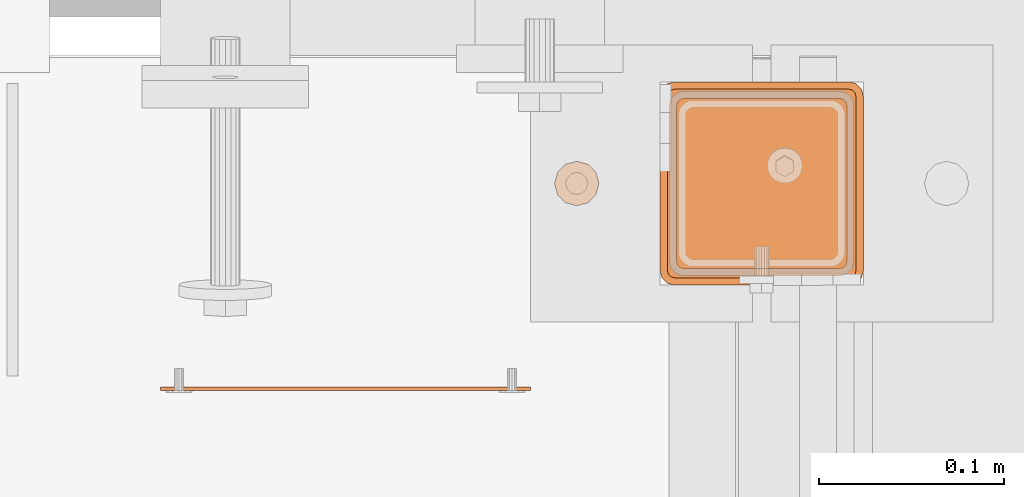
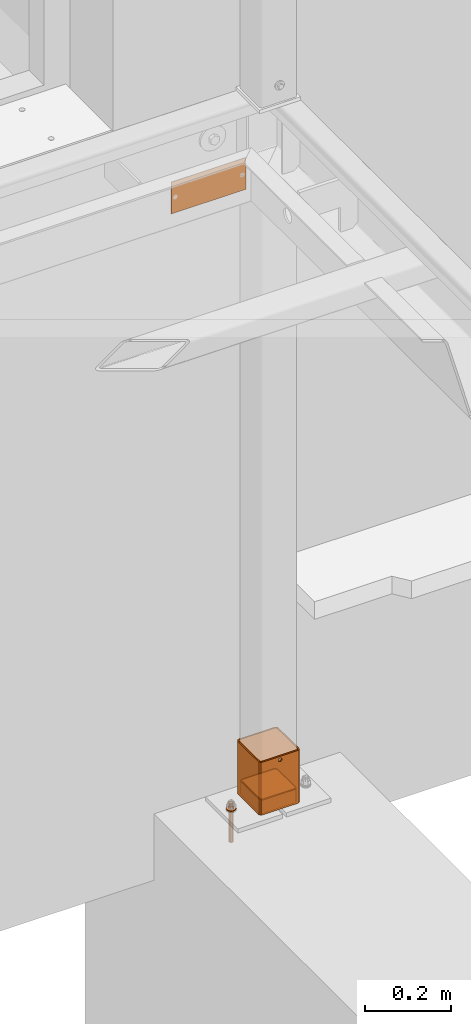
# One storey, part 96 of 116: 4 proxies.
"""IFC2X3 building model written with IfcOpenShell, lengths in millimetres."""

from ifc_helpers import new_model, entity, si_unit, converted_unit, origin_with_axes, place, context, project, spatial, faceted_brep, material, element, save


model = new_model("IFC2X3")

# Units and contexts
model_context = context("Model", 3, precision=1e-09, world=origin_with_axes())
ifc_project = project(units=[si_unit("LENGTHUNIT", "METRE", prefix="MILLI"), si_unit("AREAUNIT", "SQUARE_METRE"), si_unit("VOLUMEUNIT", "CUBIC_METRE"), converted_unit("PLANEANGLEUNIT", "DEGREE", entity("IfcPlaneAngleMeasure", 0.01745329), si_unit("PLANEANGLEUNIT", "RADIAN"), dimensions=[0, 0, 0, 0, 0, 0, 0])], contexts=[model_context])

# Site, building, storey
site_placement = place(None, origin_with_axes())
site = spatial("IfcSite", under=ifc_project, at=site_placement, Name="Site", CompositionType="ELEMENT")
building_placement = place(site_placement, origin_with_axes())
building = spatial("IfcBuilding", under=site, at=building_placement, Name="Struktur 1", CompositionType="ELEMENT")
storey_placement = place(building_placement, origin_with_axes())
storey = spatial("IfcBuildingStorey", under=building, at=storey_placement, Name="Default Storey", CompositionType="ELEMENT", Elevation=0.0)

# Proxies
ifc_material = material(Name="Kein")
proxy_1_placement = place(None, origin_with_axes())
element("IfcBuildingElementProxy", 1, at=proxy_1_placement, inside=storey, material=ifc_material, ObjectType="-", context=model_context, shape_type="Brep", body=[
    faceted_brep([(58211.049134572, 12007.822984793, -1977.0), (58211.049134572, 12007.822984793, -1997.0), (58212.513236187, 12006.358883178, -1997.0), (58212.513236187, 12006.358883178, -1977.0), (58213.049134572, 12011.287086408, -1997.0), (58215.977337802, 12008.358883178, -1997.0), (58217.049134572, 12004.358883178, -1997.0), (58217.049134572, 11920.358883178, -1997.0), (58215.977337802, 11916.358883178, -1997.0), (58213.049134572, 11913.430679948, -1997.0), (58209.049134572, 11912.358883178, -1997.0), (58125.049134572, 11912.358883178, -1997.0), (58121.049134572, 11913.430679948, -1997.0), (58118.120931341, 11916.358883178, -1997.0), (58117.049134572, 11920.358883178, -1997.0), (58117.049134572, 12004.358883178, -1997.0), (58118.120931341, 12008.358883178, -1997.0), (58121.049134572, 12011.287086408, -1997.0), (58125.049134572, 12012.358883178, -1997.0), (58209.049134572, 12012.358883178, -1997.0), (58209.049134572, 12008.358883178, -1997.0), (58125.049134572, 12008.358883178, -1997.0), (58123.049134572, 12007.822984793, -1997.0), (58121.585032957, 12006.358883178, -1997.0), (58121.049134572, 12004.358883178, -1997.0), (58121.049134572, 11920.358883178, -1997.0), (58121.585032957, 11918.358883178, -1997.0), (58123.049134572, 11916.894781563, -1997.0), (58125.049134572, 11916.358883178, -1997.0), (58209.049134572, 11916.358883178, -1997.0), (58211.049134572, 11916.894781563, -1997.0), (58212.513236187, 11918.358883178, -1997.0), (58213.049134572, 11920.358883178, -1997.0), (58213.049134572, 12004.358883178, -1997.0), (58213.049134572, 12004.358883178, -1977.0), (58213.049134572, 11920.358883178, -1977.0), (58212.513236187, 11918.358883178, -1977.0), (58211.049134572, 11916.894781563, -1977.0), (58209.049134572, 11916.358883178, -1977.0), (58125.049134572, 11916.358883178, -1977.0), (58123.049134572, 11916.894781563, -1977.0), (58121.585032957, 11918.358883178, -1977.0), (58121.049134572, 11920.358883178, -1977.0), (58121.049134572, 12004.358883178, -1977.0), (58121.585032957, 12006.358883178, -1977.0), (58123.049134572, 12007.822984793, -1977.0), (58125.049134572, 12008.358883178, -1977.0), (58209.049134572, 12008.358883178, -1977.0), (58213.049134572, 12011.287086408, -1977.0), (58215.977337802, 12008.358883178, -1977.0), (58209.049134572, 12012.358883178, -1977.0), (58217.049134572, 12004.358883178, -1977.0), (58125.049134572, 12012.358883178, -1977.0), (58217.049134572, 11920.358883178, -1977.0), (58121.049134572, 12011.287086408, -1977.0), (58215.977337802, 11916.358883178, -1977.0), (58118.120931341, 12008.358883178, -1977.0), (58213.049134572, 11913.430679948, -1977.0), (58117.049134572, 12004.358883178, -1977.0), (58209.049134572, 11912.358883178, -1977.0), (58117.049134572, 11920.358883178, -1977.0), (58125.049134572, 11912.358883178, -1977.0), (58118.120931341, 11916.358883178, -1977.0), (58121.049134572, 11913.430679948, -1977.0)], [[[0, 1, 2, 3]], [[4, 5, 6, 7, 8, 9, 10, 11, 12, 13, 14, 15, 16, 17, 18, 19], [20, 21, 22, 23, 24, 25, 26, 27, 28, 29, 30, 31, 32, 33, 2, 1]], [[3, 34, 35, 36, 37, 38, 39, 40, 41, 42, 43, 44, 45, 46, 47, 0]], [[4, 48, 49, 5]], [[1, 0, 47, 20]], [[48, 4, 19, 50]], [[5, 49, 51, 6]], [[3, 2, 33, 34]], [[21, 20, 47, 46]], [[52, 50, 19, 18]], [[7, 6, 51, 53]], [[35, 34, 33, 32]], [[21, 46, 45, 22]], [[52, 18, 17, 54]], [[7, 53, 55, 8]], [[35, 32, 31, 36]], [[22, 45, 44, 23]], [[54, 17, 16, 56]], [[8, 55, 57, 9]], [[36, 31, 30, 37]], [[23, 44, 43, 24]], [[37, 30, 29, 38]], [[56, 16, 15, 58]], [[9, 57, 59, 10]], [[39, 38, 29, 28]], [[25, 24, 43, 42]], [[60, 58, 15, 14]], [[27, 40, 39, 28]], [[11, 10, 59, 61]], [[40, 27, 26, 41]], [[41, 26, 25, 42]], [[60, 14, 13, 62]], [[11, 61, 63, 12]], [[62, 13, 12, 63]]]),
    faceted_brep([(58211.049134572, 12007.822984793, -1967.0), (58211.049134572, 12007.822984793, -1977.0), (58212.513236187, 12006.358883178, -1977.0), (58212.513236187, 12006.358883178, -1967.0), (58213.049134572, 12011.287086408, -1977.0), (58215.977337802, 12008.358883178, -1977.0), (58217.049134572, 12004.358883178, -1977.0), (58217.049134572, 11920.358883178, -1977.0), (58215.977337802, 11916.358883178, -1977.0), (58213.049134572, 11913.430679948, -1977.0), (58209.049134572, 11912.358883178, -1977.0), (58125.049134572, 11912.358883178, -1977.0), (58121.049134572, 11913.430679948, -1977.0), (58118.120931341, 11916.358883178, -1977.0), (58117.049134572, 11920.358883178, -1977.0), (58117.049134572, 12004.358883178, -1977.0), (58118.120931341, 12008.358883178, -1977.0), (58121.049134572, 12011.287086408, -1977.0), (58125.049134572, 12012.358883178, -1977.0), (58209.049134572, 12012.358883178, -1977.0), (58209.049134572, 12008.358883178, -1977.0), (58125.049134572, 12008.358883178, -1977.0), (58123.049134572, 12007.822984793, -1977.0), (58121.585032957, 12006.358883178, -1977.0), (58121.049134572, 12004.358883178, -1977.0), (58121.049134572, 11920.358883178, -1977.0), (58121.585032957, 11918.358883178, -1977.0), (58123.049134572, 11916.894781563, -1977.0), (58125.049134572, 11916.358883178, -1977.0), (58209.049134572, 11916.358883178, -1977.0), (58211.049134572, 11916.894781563, -1977.0), (58212.513236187, 11918.358883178, -1977.0), (58213.049134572, 11920.358883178, -1977.0), (58213.049134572, 12004.358883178, -1977.0), (58213.049134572, 12004.358883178, -1967.0), (58213.049134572, 11920.358883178, -1967.0), (58212.513236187, 11918.358883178, -1967.0), (58211.049134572, 11916.894781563, -1967.0), (58209.049134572, 11916.358883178, -1967.0), (58125.049134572, 11916.358883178, -1967.0), (58123.049134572, 11916.894781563, -1967.0), (58121.585032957, 11918.358883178, -1967.0), (58121.049134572, 11920.358883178, -1967.0), (58121.049134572, 12004.358883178, -1967.0), (58121.585032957, 12006.358883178, -1967.0), (58123.049134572, 12007.822984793, -1967.0), (58125.049134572, 12008.358883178, -1967.0), (58209.049134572, 12008.358883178, -1967.0), (58213.049134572, 12011.287086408, -1967.0), (58215.977337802, 12008.358883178, -1967.0), (58209.049134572, 12012.358883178, -1967.0), (58217.049134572, 12004.358883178, -1967.0), (58125.049134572, 12012.358883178, -1967.0), (58217.049134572, 11920.358883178, -1967.0), (58121.049134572, 12011.287086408, -1967.0), (58215.977337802, 11916.358883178, -1967.0), (58118.120931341, 12008.358883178, -1967.0), (58213.049134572, 11913.430679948, -1967.0), (58117.049134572, 12004.358883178, -1967.0), (58209.049134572, 11912.358883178, -1967.0), (58117.049134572, 11920.358883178, -1967.0), (58125.049134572, 11912.358883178, -1967.0), (58118.120931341, 11916.358883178, -1967.0), (58121.049134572, 11913.430679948, -1967.0)], [[[0, 1, 2, 3]], [[4, 5, 6, 7, 8, 9, 10, 11, 12, 13, 14, 15, 16, 17, 18, 19], [20, 21, 22, 23, 24, 25, 26, 27, 28, 29, 30, 31, 32, 33, 2, 1]], [[3, 34, 35, 36, 37, 38, 39, 40, 41, 42, 43, 44, 45, 46, 47, 0]], [[4, 48, 49, 5]], [[1, 0, 47, 20]], [[48, 4, 19, 50]], [[5, 49, 51, 6]], [[3, 2, 33, 34]], [[21, 20, 47, 46]], [[52, 50, 19, 18]], [[7, 6, 51, 53]], [[35, 34, 33, 32]], [[21, 46, 45, 22]], [[52, 18, 17, 54]], [[7, 53, 55, 8]], [[35, 32, 31, 36]], [[22, 45, 44, 23]], [[54, 17, 16, 56]], [[8, 55, 57, 9]], [[36, 31, 30, 37]], [[23, 44, 43, 24]], [[37, 30, 29, 38]], [[56, 16, 15, 58]], [[9, 57, 59, 10]], [[39, 38, 29, 28]], [[25, 24, 43, 42]], [[60, 58, 15, 14]], [[27, 40, 39, 28]], [[11, 10, 59, 61]], [[40, 27, 26, 41]], [[41, 26, 25, 42]], [[60, 14, 13, 62]], [[11, 61, 63, 12]], [[62, 13, 12, 63]]]),
    faceted_brep([(58211.049134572, 12007.822984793, -1962.0), (58211.049134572, 12007.822984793, -1967.0), (58212.513236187, 12006.358883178, -1967.0), (58212.513236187, 12006.358883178, -1962.0), (58213.049134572, 12011.287086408, -1967.0), (58215.977337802, 12008.358883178, -1967.0), (58217.049134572, 12004.358883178, -1967.0), (58217.049134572, 11920.358883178, -1967.0), (58215.977337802, 11916.358883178, -1967.0), (58213.049134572, 11913.430679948, -1967.0), (58209.049134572, 11912.358883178, -1967.0), (58125.049134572, 11912.358883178, -1967.0), (58121.049134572, 11913.430679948, -1967.0), (58118.120931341, 11916.358883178, -1967.0), (58117.049134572, 11920.358883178, -1967.0), (58117.049134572, 12004.358883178, -1967.0), (58118.120931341, 12008.358883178, -1967.0), (58121.049134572, 12011.287086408, -1967.0), (58125.049134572, 12012.358883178, -1967.0), (58209.049134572, 12012.358883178, -1967.0), (58209.049134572, 12008.358883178, -1967.0), (58125.049134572, 12008.358883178, -1967.0), (58123.049134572, 12007.822984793, -1967.0), (58121.585032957, 12006.358883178, -1967.0), (58121.049134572, 12004.358883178, -1967.0), (58121.049134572, 11920.358883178, -1967.0), (58121.585032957, 11918.358883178, -1967.0), (58123.049134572, 11916.894781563, -1967.0), (58125.049134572, 11916.358883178, -1967.0), (58209.049134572, 11916.358883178, -1967.0), (58211.049134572, 11916.894781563, -1967.0), (58212.513236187, 11918.358883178, -1967.0), (58213.049134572, 11920.358883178, -1967.0), (58213.049134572, 12004.358883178, -1967.0), (58213.049134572, 12004.358883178, -1962.0), (58213.049134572, 11920.358883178, -1962.0), (58212.513236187, 11918.358883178, -1962.0), (58211.049134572, 11916.894781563, -1962.0), (58209.049134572, 11916.358883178, -1962.0), (58125.049134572, 11916.358883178, -1962.0), (58123.049134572, 11916.894781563, -1962.0), (58121.585032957, 11918.358883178, -1962.0), (58121.049134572, 11920.358883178, -1962.0), (58121.049134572, 12004.358883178, -1962.0), (58121.585032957, 12006.358883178, -1962.0), (58123.049134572, 12007.822984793, -1962.0), (58125.049134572, 12008.358883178, -1962.0), (58209.049134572, 12008.358883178, -1962.0), (58213.049134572, 12011.287086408, -1962.0), (58215.977337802, 12008.358883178, -1962.0), (58209.049134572, 12012.358883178, -1962.0), (58217.049134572, 12004.358883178, -1962.0), (58125.049134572, 12012.358883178, -1962.0), (58217.049134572, 11920.358883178, -1962.0), (58121.049134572, 12011.287086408, -1962.0), (58215.977337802, 11916.358883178, -1962.0), (58118.120931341, 12008.358883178, -1962.0), (58213.049134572, 11913.430679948, -1962.0), (58117.049134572, 12004.358883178, -1962.0), (58209.049134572, 11912.358883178, -1962.0), (58117.049134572, 11920.358883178, -1962.0), (58125.049134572, 11912.358883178, -1962.0), (58118.120931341, 11916.358883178, -1962.0), (58121.049134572, 11913.430679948, -1962.0)], [[[0, 1, 2, 3]], [[4, 5, 6, 7, 8, 9, 10, 11, 12, 13, 14, 15, 16, 17, 18, 19], [20, 21, 22, 23, 24, 25, 26, 27, 28, 29, 30, 31, 32, 33, 2, 1]], [[3, 34, 35, 36, 37, 38, 39, 40, 41, 42, 43, 44, 45, 46, 47, 0]], [[4, 48, 49, 5]], [[1, 0, 47, 20]], [[48, 4, 19, 50]], [[5, 49, 51, 6]], [[3, 2, 33, 34]], [[21, 20, 47, 46]], [[52, 50, 19, 18]], [[7, 6, 51, 53]], [[35, 34, 33, 32]], [[21, 46, 45, 22]], [[52, 18, 17, 54]], [[7, 53, 55, 8]], [[35, 32, 31, 36]], [[22, 45, 44, 23]], [[54, 17, 16, 56]], [[8, 55, 57, 9]], [[36, 31, 30, 37]], [[23, 44, 43, 24]], [[37, 30, 29, 38]], [[56, 16, 15, 58]], [[9, 57, 59, 10]], [[39, 38, 29, 28]], [[25, 24, 43, 42]], [[60, 58, 15, 14]], [[27, 40, 39, 28]], [[11, 10, 59, 61]], [[40, 27, 26, 41]], [[41, 26, 25, 42]], [[60, 14, 13, 62]], [[11, 61, 63, 12]], [[62, 13, 12, 63]]]),
    faceted_brep([(58211.049134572, 12007.822984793, -1959.0), (58211.049134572, 12007.822984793, -1962.0), (58212.513236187, 12006.358883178, -1962.0), (58212.513236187, 12006.358883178, -1959.0), (58213.049134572, 12011.287086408, -1962.0), (58215.977337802, 12008.358883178, -1962.0), (58217.049134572, 12004.358883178, -1962.0), (58217.049134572, 11920.358883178, -1962.0), (58215.977337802, 11916.358883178, -1962.0), (58213.049134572, 11913.430679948, -1962.0), (58209.049134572, 11912.358883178, -1962.0), (58125.049134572, 11912.358883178, -1962.0), (58121.049134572, 11913.430679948, -1962.0), (58118.120931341, 11916.358883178, -1962.0), (58117.049134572, 11920.358883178, -1962.0), (58117.049134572, 12004.358883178, -1962.0), (58118.120931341, 12008.358883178, -1962.0), (58121.049134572, 12011.287086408, -1962.0), (58125.049134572, 12012.358883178, -1962.0), (58209.049134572, 12012.358883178, -1962.0), (58209.049134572, 12008.358883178, -1962.0), (58125.049134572, 12008.358883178, -1962.0), (58123.049134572, 12007.822984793, -1962.0), (58121.585032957, 12006.358883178, -1962.0), (58121.049134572, 12004.358883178, -1962.0), (58121.049134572, 11920.358883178, -1962.0), (58121.585032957, 11918.358883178, -1962.0), (58123.049134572, 11916.894781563, -1962.0), (58125.049134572, 11916.358883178, -1962.0), (58209.049134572, 11916.358883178, -1962.0), (58211.049134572, 11916.894781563, -1962.0), (58212.513236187, 11918.358883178, -1962.0), (58213.049134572, 11920.358883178, -1962.0), (58213.049134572, 12004.358883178, -1962.0), (58213.049134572, 12004.358883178, -1959.0), (58213.049134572, 11920.358883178, -1959.0), (58212.513236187, 11918.358883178, -1959.0), (58211.049134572, 11916.894781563, -1959.0), (58209.049134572, 11916.358883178, -1959.0), (58125.049134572, 11916.358883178, -1959.0), (58123.049134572, 11916.894781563, -1959.0), (58121.585032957, 11918.358883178, -1959.0), (58121.049134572, 11920.358883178, -1959.0), (58121.049134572, 12004.358883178, -1959.0), (58121.585032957, 12006.358883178, -1959.0), (58123.049134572, 12007.822984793, -1959.0), (58125.049134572, 12008.358883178, -1959.0), (58209.049134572, 12008.358883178, -1959.0), (58213.049134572, 12011.287086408, -1959.0), (58215.977337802, 12008.358883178, -1959.0), (58209.049134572, 12012.358883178, -1959.0), (58217.049134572, 12004.358883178, -1959.0), (58125.049134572, 12012.358883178, -1959.0), (58217.049134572, 11920.358883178, -1959.0), (58121.049134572, 12011.287086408, -1959.0), (58215.977337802, 11916.358883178, -1959.0), (58118.120931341, 12008.358883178, -1959.0), (58213.049134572, 11913.430679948, -1959.0), (58117.049134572, 12004.358883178, -1959.0), (58209.049134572, 11912.358883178, -1959.0), (58117.049134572, 11920.358883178, -1959.0), (58125.049134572, 11912.358883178, -1959.0), (58118.120931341, 11916.358883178, -1959.0), (58121.049134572, 11913.430679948, -1959.0)], [[[0, 1, 2, 3]], [[4, 5, 6, 7, 8, 9, 10, 11, 12, 13, 14, 15, 16, 17, 18, 19], [20, 21, 22, 23, 24, 25, 26, 27, 28, 29, 30, 31, 32, 33, 2, 1]], [[3, 34, 35, 36, 37, 38, 39, 40, 41, 42, 43, 44, 45, 46, 47, 0]], [[4, 48, 49, 5]], [[1, 0, 47, 20]], [[48, 4, 19, 50]], [[5, 49, 51, 6]], [[3, 2, 33, 34]], [[21, 20, 47, 46]], [[52, 50, 19, 18]], [[7, 6, 51, 53]], [[35, 34, 33, 32]], [[21, 46, 45, 22]], [[52, 18, 17, 54]], [[7, 53, 55, 8]], [[35, 32, 31, 36]], [[22, 45, 44, 23]], [[54, 17, 16, 56]], [[8, 55, 57, 9]], [[36, 31, 30, 37]], [[23, 44, 43, 24]], [[37, 30, 29, 38]], [[56, 16, 15, 58]], [[9, 57, 59, 10]], [[39, 38, 29, 28]], [[25, 24, 43, 42]], [[60, 58, 15, 14]], [[27, 40, 39, 28]], [[11, 10, 59, 61]], [[40, 27, 26, 41]], [[41, 26, 25, 42]], [[60, 14, 13, 62]], [[11, 61, 63, 12]], [[62, 13, 12, 63]]]),
])
proxy_2_placement = place(None, origin_with_axes())
element("IfcBuildingElementProxy", 2, at=proxy_2_placement, inside=storey, material=ifc_material, ObjectType="-", context=model_context, shape_type="Brep", body=[
    faceted_brep([(58220.977337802, 12013.358883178, -1847.0), (58220.977337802, 12013.358883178, -1997.0), (58218.049134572, 12016.287086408, -1997.0), (58218.049134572, 12016.287086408, -1847.0), (58217.513236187, 12011.358883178, -1847.0), (58218.049134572, 12009.358883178, -1847.0), (58218.049134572, 11915.358883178, -1847.0), (58217.513236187, 11913.358883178, -1847.0), (58216.049134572, 11911.894781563, -1847.0), (58214.049134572, 11911.358883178, -1847.0), (58120.049134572, 11911.358883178, -1847.0), (58118.049134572, 11911.894781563, -1847.0), (58116.585032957, 11913.358883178, -1847.0), (58116.049134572, 11915.358883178, -1847.0), (58116.049134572, 12009.358883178, -1847.0), (58116.585032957, 12011.358883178, -1847.0), (58118.049134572, 12012.822984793, -1847.0), (58120.049134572, 12013.358883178, -1847.0), (58214.049134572, 12013.358883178, -1847.0), (58216.049134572, 12012.822984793, -1847.0), (58216.049134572, 12012.822984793, -1997.0), (58217.513236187, 12011.358883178, -1997.0), (58222.049134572, 12009.358883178, -1997.0), (58222.049134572, 11915.358883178, -1997.0), (58220.977337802, 11911.358883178, -1997.0), (58218.049134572, 11908.430679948, -1997.0), (58214.049134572, 11907.358883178, -1997.0), (58120.049134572, 11907.358883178, -1997.0), (58116.049134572, 11908.430679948, -1997.0), (58113.120931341, 11911.358883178, -1997.0), (58112.049134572, 11915.358883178, -1997.0), (58112.049134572, 12009.358883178, -1997.0), (58113.120931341, 12013.358883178, -1997.0), (58116.049134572, 12016.287086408, -1997.0), (58120.049134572, 12017.358883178, -1997.0), (58214.049134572, 12017.358883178, -1997.0), (58214.049134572, 12013.358883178, -1997.0), (58120.049134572, 12013.358883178, -1997.0), (58118.049134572, 12012.822984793, -1997.0), (58116.585032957, 12011.358883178, -1997.0), (58116.049134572, 12009.358883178, -1997.0), (58116.049134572, 11915.358883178, -1997.0), (58116.585032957, 11913.358883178, -1997.0), (58118.049134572, 11911.894781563, -1997.0), (58120.049134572, 11911.358883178, -1997.0), (58214.049134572, 11911.358883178, -1997.0), (58216.049134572, 11911.894781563, -1997.0), (58217.513236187, 11913.358883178, -1997.0), (58218.049134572, 11915.358883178, -1997.0), (58218.049134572, 12009.358883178, -1997.0), (58222.049134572, 12009.358883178, -1847.0), (58214.049134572, 12017.358883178, -1847.0), (58222.049134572, 11915.358883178, -1847.0), (58120.049134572, 12017.358883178, -1847.0), (58220.977337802, 11911.358883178, -1847.0), (58116.049134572, 12016.287086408, -1847.0), (58172.050134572, 11911.358883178, -1857.0), (58172.050134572, 11907.358883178, -1857.0), (58171.380127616, 11907.358883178, -1854.4995), (58171.380127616, 11911.358883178, -1854.4995), (58171.380127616, 11911.358883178, -1859.5005), (58171.380127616, 11907.358883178, -1859.5005), (58169.549634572, 11907.358883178, -1852.669006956), (58169.549634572, 11911.358883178, -1852.669006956), (58214.049134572, 11907.358883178, -1847.0), (58120.049134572, 11907.358883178, -1847.0), (58169.549634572, 11907.358883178, -1861.330993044), (58167.049134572, 11907.358883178, -1862.001), (58164.548634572, 11907.358883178, -1861.330993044), (58162.718141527, 11907.358883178, -1859.5005), (58162.048134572, 11907.358883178, -1857.0), (58162.718141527, 11907.358883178, -1854.4995), (58164.548634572, 11907.358883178, -1852.669006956), (58167.049134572, 11907.358883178, -1851.999), (58218.049134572, 11908.430679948, -1847.0), (58167.049134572, 11911.358883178, -1851.999), (58164.548634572, 11911.358883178, -1852.669006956), (58162.718141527, 11911.358883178, -1854.4995), (58162.048134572, 11911.358883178, -1857.0), (58162.718141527, 11911.358883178, -1859.5005), (58164.548634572, 11911.358883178, -1861.330993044), (58167.049134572, 11911.358883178, -1862.001), (58169.549634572, 11911.358883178, -1861.330993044), (58113.120931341, 12013.358883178, -1847.0), (58112.049134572, 12009.358883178, -1847.0), (58112.049134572, 11915.358883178, -1847.0), (58113.120931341, 11911.358883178, -1847.0), (58116.049134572, 11908.430679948, -1847.0)], [[[0, 1, 2, 3]], [[4, 5, 6, 7, 8, 9, 10, 11, 12, 13, 14, 15, 16, 17, 18, 19]], [[19, 20, 21, 4]], [[22, 23, 24, 25, 26, 27, 28, 29, 30, 31, 32, 33, 34, 35, 2, 1], [21, 20, 36, 37, 38, 39, 40, 41, 42, 43, 44, 45, 46, 47, 48, 49]], [[1, 0, 50, 22]], [[20, 19, 18, 36]], [[3, 2, 35, 51]], [[4, 21, 49, 5]], [[23, 22, 50, 52]], [[37, 36, 18, 17]], [[53, 51, 35, 34]], [[6, 5, 49, 48]], [[23, 52, 54, 24]], [[37, 17, 16, 38]], [[53, 34, 33, 55]], [[56, 57, 58, 59]], [[6, 48, 47, 7]], [[57, 56, 60, 61]], [[59, 58, 62, 63]], [[64, 65, 27, 26], [61, 66, 67, 68, 69, 70, 71, 72, 73, 62, 58, 57]], [[24, 54, 74, 25]], [[7, 47, 46, 8]], [[9, 45, 44, 10], [59, 63, 75, 76, 77, 78, 79, 80, 81, 82, 60, 56]], [[38, 16, 15, 39]], [[55, 33, 32, 83]], [[63, 62, 73, 75]], [[75, 73, 72, 76]], [[45, 9, 8, 46]], [[61, 60, 82, 66]], [[76, 72, 71, 77]], [[25, 74, 64, 26]], [[66, 82, 81, 67]], [[67, 81, 80, 68]], [[39, 15, 14, 40]], [[83, 32, 31, 84]], [[77, 71, 70, 78]], [[69, 79, 78, 70]], [[68, 80, 79, 69]], [[41, 40, 14, 13]], [[85, 84, 31, 30]], [[41, 13, 12, 42]], [[10, 44, 43, 11]], [[11, 43, 42, 12]], [[85, 30, 29, 86]], [[27, 65, 87, 28]], [[86, 29, 28, 87]]]),
])
proxy_3_placement = place(None, origin_with_axes())
element("IfcBuildingElementProxy", 3, at=proxy_3_placement, inside=storey, material=ifc_material, ObjectType="-", context=model_context, shape_type="Brep", body=[
    faceted_brep([(58070.049134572, 11957.162730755, -1976.5), (58070.049134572, 11957.162730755, -1992.0), (58072.245286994, 11959.358883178, -1992.0), (58072.245286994, 11959.358883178, -1976.5), (58079.049134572, 11962.358883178, -1992.0), (58077.441439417, 11968.358883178, -1992.0), (58073.049134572, 11972.751188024, -1992.0), (58067.049134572, 11974.358883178, -1992.0), (58061.049134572, 11972.751188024, -1992.0), (58056.656829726, 11968.358883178, -1992.0), (58055.049134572, 11962.358883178, -1992.0), (58056.656829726, 11956.358883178, -1992.0), (58061.049134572, 11951.966578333, -1992.0), (58067.049134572, 11950.358883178, -1992.0), (58073.049134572, 11951.966578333, -1992.0), (58077.441439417, 11956.358883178, -1992.0), (58067.049134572, 11956.358883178, -1992.0), (58064.049134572, 11957.162730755, -1992.0), (58061.852982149, 11959.358883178, -1992.0), (58061.049134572, 11962.358883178, -1992.0), (58061.852982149, 11965.358883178, -1992.0), (58064.049134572, 11967.555035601, -1992.0), (58067.049134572, 11968.358883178, -1992.0), (58070.049134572, 11967.555035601, -1992.0), (58072.245286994, 11965.358883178, -1992.0), (58073.049134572, 11962.358883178, -1992.0), (58067.049134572, 11956.358883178, -1976.5), (58077.441439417, 11956.358883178, -1994.5), (58073.049134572, 11951.966578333, -1994.5), (58064.049134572, 11967.555035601, -1976.5), (58061.852982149, 11965.358883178, -1976.5), (58061.049134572, 11962.358883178, -1976.5), (58061.852982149, 11959.358883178, -1976.5), (58064.049134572, 11957.162730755, -1976.5), (58073.049134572, 11962.358883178, -1976.5), (58072.245286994, 11965.358883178, -1976.5), (58070.049134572, 11967.555035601, -1976.5), (58067.049134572, 11968.358883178, -1976.5), (58067.049134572, 11950.358883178, -1994.5), (58061.049134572, 11951.966578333, -1994.5), (58056.656829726, 11956.358883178, -1994.5), (58055.049134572, 11962.358883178, -1994.5), (58056.656829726, 11968.358883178, -1994.5), (58061.049134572, 11972.751188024, -1994.5), (58067.049134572, 11974.358883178, -1994.5), (58073.049134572, 11972.751188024, -1994.5), (58077.441439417, 11968.358883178, -1994.5), (58079.049134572, 11962.358883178, -1994.5), (58067.049134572, 11956.358883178, -1994.5), (58070.049134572, 11957.162730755, -1994.5), (58072.245286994, 11959.358883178, -1994.5), (58073.049134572, 11962.358883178, -1994.5), (58072.245286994, 11965.358883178, -1994.5), (58070.049134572, 11967.555035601, -1994.5), (58067.049134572, 11968.358883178, -1994.5), (58064.049134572, 11967.555035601, -1994.5), (58061.852982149, 11965.358883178, -1994.5), (58061.049134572, 11962.358883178, -1994.5), (58061.852982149, 11959.358883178, -1994.5), (58064.049134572, 11957.162730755, -1994.5), (58070.049134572, 11957.162730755, -2086.5), (58067.049134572, 11956.358883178, -2086.5), (58072.245286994, 11959.358883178, -2086.5), (58073.049134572, 11962.358883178, -2086.5), (58072.245286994, 11965.358883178, -2086.5), (58070.049134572, 11967.555035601, -2086.5), (58064.049134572, 11957.162730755, -2086.5), (58061.852982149, 11959.358883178, -2086.5), (58061.049134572, 11962.358883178, -2086.5), (58061.852982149, 11965.358883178, -2086.5), (58064.049134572, 11967.555035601, -2086.5), (58067.049134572, 11968.358883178, -2086.5)], [[[0, 1, 2, 3]], [[4, 5, 6, 7, 8, 9, 10, 11, 12, 13, 14, 15], [2, 1, 16, 17, 18, 19, 20, 21, 22, 23, 24, 25]], [[1, 0, 26, 16]], [[27, 15, 14, 28]], [[29, 30, 31, 32, 33, 26, 0, 3, 34, 35, 36, 37]], [[38, 39, 40, 41, 42, 43, 44, 45, 46, 47, 27, 28], [48, 49, 50, 51, 52, 53, 54, 55, 56, 57, 58, 59]], [[15, 27, 47, 4]], [[3, 2, 25, 34]], [[28, 14, 13, 38]], [[16, 26, 33, 17]], [[60, 49, 48, 61]], [[62, 50, 49, 60]], [[63, 51, 50, 62]], [[64, 52, 51, 63]], [[4, 47, 46, 5]], [[34, 25, 24, 35]], [[17, 33, 32, 18]], [[65, 64, 63, 62, 60, 61, 66, 67, 68, 69, 70, 71]], [[61, 48, 59, 66]], [[38, 13, 12, 39]], [[52, 64, 65, 53]], [[18, 32, 31, 19]], [[53, 65, 71, 54]], [[5, 46, 45, 6]], [[35, 24, 23, 36]], [[58, 67, 66, 59]], [[39, 12, 11, 40]], [[19, 31, 30, 20]], [[67, 58, 57, 68]], [[56, 69, 68, 57]], [[55, 70, 69, 56]], [[54, 71, 70, 55]], [[6, 45, 44, 7]], [[36, 23, 22, 37]], [[40, 11, 10, 41]], [[21, 29, 37, 22]], [[20, 30, 29, 21]], [[7, 44, 43, 8]], [[41, 10, 9, 42]], [[8, 43, 42, 9]]]),
])
proxy_4_placement = place(None, origin_with_axes())
element("IfcBuildingElementProxy", 4, at=proxy_4_placement, inside=storey, material=ifc_material, ObjectType="-", context=model_context, shape_type="Brep", body=[
    faceted_brep([(58032.047720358, 11852.358883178, -119.001), (58032.047720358, 11850.358883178, -119.001), (58034.048220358, 11850.358883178, -118.46496764), (58034.048220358, 11852.358883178, -118.46496764), (58035.512687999, 11850.358883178, -117.0005), (58035.512687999, 11852.358883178, -117.0005), (58030.047220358, 11852.358883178, -118.46496764), (58030.047220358, 11850.358883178, -118.46496764), (58028.582752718, 11852.358883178, -117.0005), (58028.582752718, 11850.358883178, -117.0005), (58036.048720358, 11852.358883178, -115.0), (58035.512687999, 11852.358883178, -112.9995), (58034.048220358, 11852.358883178, -111.535032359), (58032.047720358, 11852.358883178, -110.999), (58030.047220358, 11852.358883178, -111.535032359), (58028.582752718, 11852.358883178, -112.9995), (58028.046720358, 11852.358883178, -115.0), (57855.512687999, 11852.358883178, -117.0005), (57856.048720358, 11852.358883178, -115.0), (57855.512687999, 11852.358883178, -112.9995), (57854.048220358, 11852.358883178, -111.535032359), (57852.047720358, 11852.358883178, -110.999), (57850.047220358, 11852.358883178, -111.535032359), (57848.582752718, 11852.358883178, -112.9995), (57848.046720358, 11852.358883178, -115.0), (57848.582752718, 11852.358883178, -117.0005), (57850.047220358, 11852.358883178, -118.46496764), (57852.047720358, 11852.358883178, -119.001), (57854.048220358, 11852.358883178, -118.46496764), (57854.048220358, 11850.358883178, -118.46496764), (57855.512687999, 11850.358883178, -117.0005), (57842.047720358, 11850.358883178, -70.0), (57842.047720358, 11850.358883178, -160.0), (58042.047720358, 11850.358883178, -160.0), (58042.047720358, 11850.358883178, -70.0), (58028.046720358, 11850.358883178, -115.0), (58028.582752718, 11850.358883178, -112.9995), (58030.047220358, 11850.358883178, -111.535032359), (58032.047720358, 11850.358883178, -110.999), (58034.048220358, 11850.358883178, -111.535032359), (58035.512687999, 11850.358883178, -112.9995), (58036.048720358, 11850.358883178, -115.0), (57852.047720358, 11850.358883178, -119.001), (57850.047220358, 11850.358883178, -118.46496764), (57856.048720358, 11850.358883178, -115.0), (57848.582752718, 11850.358883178, -117.0005), (57842.047720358, 11852.358883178, -160.0), (58042.047720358, 11852.358883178, -160.0), (57848.046720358, 11850.358883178, -115.0), (58042.047720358, 11852.358883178, -70.0), (57855.512687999, 11850.358883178, -112.9995), (57842.047720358, 11852.358883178, -70.0), (57848.582752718, 11850.358883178, -112.9995), (57854.048220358, 11850.358883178, -111.535032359), (57850.047220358, 11850.358883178, -111.535032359), (57852.047720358, 11850.358883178, -110.999)], [[[0, 1, 2, 3]], [[3, 2, 4, 5]], [[1, 0, 6, 7]], [[7, 6, 8, 9]], [[6, 0, 3, 5, 10, 11, 12, 13, 14, 15, 16, 8], [17, 18, 19, 20, 21, 22, 23, 24, 25, 26, 27, 28]], [[28, 29, 30, 17]], [[31, 32, 33, 34], [1, 7, 9, 35, 36, 37, 38, 39, 40, 41, 4, 2]], [[29, 28, 27, 42]], [[5, 4, 41, 10]], [[9, 8, 16, 35]], [[42, 27, 26, 43]], [[10, 41, 40, 11]], [[17, 30, 44, 18]], [[43, 26, 25, 45]], [[46, 47, 33, 32]], [[11, 40, 39, 12]], [[35, 16, 15, 36]], [[45, 25, 24, 48]], [[34, 33, 47, 49]], [[12, 39, 38, 13]], [[37, 14, 13, 38]], [[36, 15, 14, 37]], [[18, 44, 50, 19]], [[51, 46, 32, 31]], [[49, 51, 31, 34]], [[48, 24, 23, 52]], [[19, 50, 53, 20]], [[52, 23, 22, 54]], [[20, 53, 55, 21]], [[54, 22, 21, 55]]]),
])

save(model, "model.ifc")
